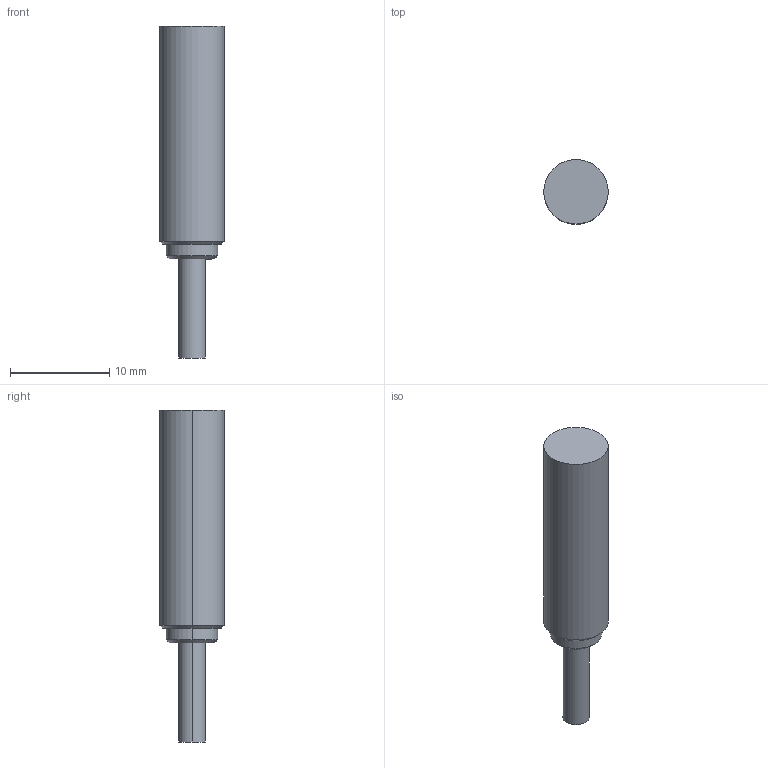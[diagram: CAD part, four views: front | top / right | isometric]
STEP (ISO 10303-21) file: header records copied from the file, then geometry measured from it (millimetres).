
FILE_DESCRIPTION (( 'STEP AP203' ), '1' );
FILE_NAME ('Bi-EH6_5K-X.step', '2021-01-19T19:26:21', ( '' ), ( '' ), 'SwSTEP 2.0', 'SolidWorks 2019', '' );
FILE_SCHEMA (( 'CONFIG_CONTROL_DESIGN' ));
Length unit declared in the file: millimetre
Products named in the file (1): Bi-EH6_5K-X
Bounding box: 6.5 x 6.5 x 33.5 mm (x, y, z)
Volume: 817.6 mm3; surface area: 618.4 mm2
Topology: 1 solids, 1 shells, 17 faces, 32 edges, 20 vertices
Faces by surface type: cylinder 8, plane 5, cone 4
Entity records: 511 total; most frequent: DIRECTION 88, CARTESIAN_POINT 70, ORIENTED_EDGE 64, AXIS2_PLACEMENT_3D 38, EDGE_CURVE 32, VERTEX_POINT 20, EDGE_LOOP 20, CIRCLE 20
